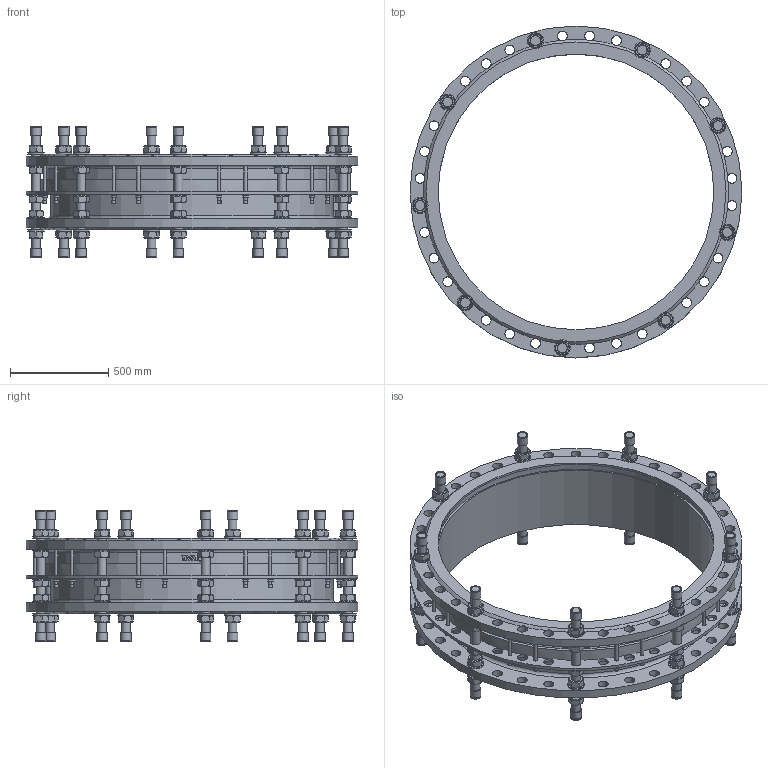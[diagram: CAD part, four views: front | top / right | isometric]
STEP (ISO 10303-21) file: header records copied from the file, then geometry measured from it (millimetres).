
FILE_DESCRIPTION(('STEP AP242'), '1');
FILE_NAME('Ìîíòàæíàÿ âñòàâêà', '', ('UNSPECIFIED'), ('UNSPECIFIED'), 'C3D Converter', 'C3D Toolkit', '');
FILE_SCHEMA(('AP242_MANAGED_MODEL_BASED_3D_ENGINEERING_MIM_LF { 1 0 10303 442 1 1 4 }'));
Length unit declared in the file: millimetre
Products named in the file (13): ШМ.М16.310; ШМ.М16.206
Assembly tree (193 placements, depth 2):
  (unnamed)
    (unnamed)
    (unnamed)
    (unnamed)
    (unnamed)
    (unnamed)  x45
    (unnamed)  x45
    ШМ.М16.310  x9
    (unnamed)  x18
    (unnamed)  x18
    (unnamed)  x18
    ШМ.М16.206  x18
    (unnamed)  x18
Bounding box: 1685 x 1685 x 669 mm (x, y, z)
Volume: 122115459.7 mm3; surface area: 12649569.8 mm2
Topology: 197 solids, 197 shells, 1672 faces, 3717 edges, 2392 vertices
Faces by surface type: plane 857, cylinder 454, cone 312, torus 38, extrusion 11
Full cylindrical faces by diameter (mm): 16 x72, 17 x18, 18 x18, 19.2 x18, 30 x18, 33.221 x1, 45 x72, 46 x45, 50 x108, 54 x18, 82 x45, 1400 x2, 1432 x2, 1448 x2, 1480 x1, 1496 x1, 1508 x1, 1540 x1, 1685 x3
Entity records: 26187 total; most frequent: CARTESIAN_POINT 11801, DIRECTION 2256, ORIENTED_EDGE 1634, AXIS2_PLACEMENT_3D 1091, EDGE_CURVE 817, EDGE_LOOP 731, VERTEX_POINT 656, CIRCLE 602
